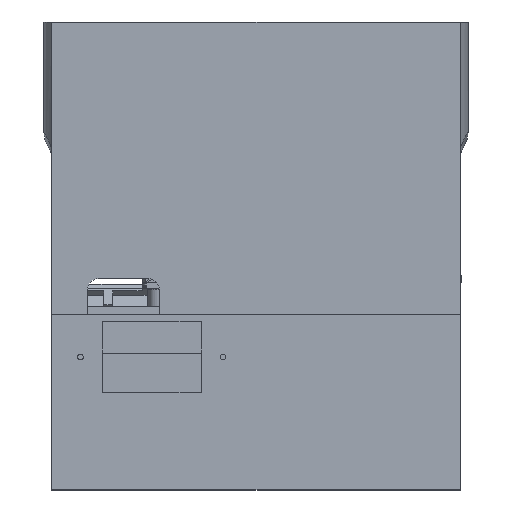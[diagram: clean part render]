
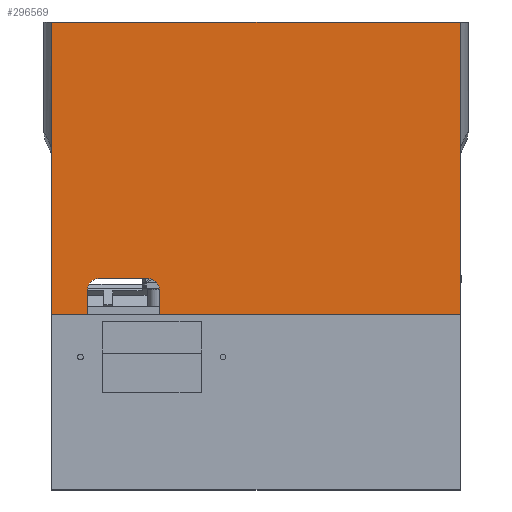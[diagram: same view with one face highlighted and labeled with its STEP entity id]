
A CAD part, left-side view. The second image highlights one B-rep face of the part: STEP entity #296569.
In plain terms, the highlighted planar face has unit normal (-1, 0, 0) as drawn and (0, 1, 0) by its records, which use the part's own axes.
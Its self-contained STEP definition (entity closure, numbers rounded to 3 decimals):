
#1977 = CARTESIAN_POINT ( 'NONE',  ( -43.675, 26.094, 0. ) ) ;
#7882 = VERTEX_POINT ( 'NONE', #97111 ) ;
#8702 = EDGE_CURVE ( 'NONE', #354873, #31269, #239070, .T. ) ;
#12290 = DIRECTION ( 'NONE',  ( 0., 0., -1. ) ) ;
#21404 = EDGE_CURVE ( 'NONE', #376067, #129343, #140900, .T. ) ;
#22050 = CARTESIAN_POINT ( 'NONE',  ( -30.675, 26.094, 74.6 ) ) ;
#23405 = VERTEX_POINT ( 'NONE', #294893 ) ;
#24353 = LINE ( 'NONE', #114086, #166220 ) ;
#29202 = CARTESIAN_POINT ( 'NONE',  ( -33.675, 26.094, 71.6 ) ) ;
#29952 = VECTOR ( 'NONE', #234385, 1000. ) ;
#31269 = VERTEX_POINT ( 'NONE', #274991 ) ;
#33213 = PLANE ( 'NONE',  #58899 ) ;
#52102 = EDGE_CURVE ( 'NONE', #351735, #23405, #241149, .T. ) ;
#58899 = AXIS2_PLACEMENT_3D ( 'NONE', #317908, #142200, #145926 ) ;
#67391 = VERTEX_POINT ( 'NONE', #245687 ) ;
#81676 = VECTOR ( 'NONE', #325216, 1000. ) ;
#88808 = EDGE_CURVE ( 'NONE', #354873, #67391, #369795, .T. ) ;
#95055 = ORIENTED_EDGE ( 'NONE', *, *, #191812, .F. ) ;
#97111 = CARTESIAN_POINT ( 'NONE',  ( -33.675, 26.094, 81.6 ) ) ;
#98942 = AXIS2_PLACEMENT_3D ( 'NONE', #22050, #132939, #138562 ) ;
#110045 = DIRECTION ( 'NONE',  ( 0., 0., -1. ) ) ;
#114086 = CARTESIAN_POINT ( 'NONE',  ( -33.675, 26.094, 81.6 ) ) ;
#126453 = CARTESIAN_POINT ( 'NONE',  ( -30.675, 26.094, 71.6 ) ) ;
#129343 = VERTEX_POINT ( 'NONE', #331313 ) ;
#132939 = DIRECTION ( 'NONE',  ( 0., -1., 0. ) ) ;
#137746 = ORIENTED_EDGE ( 'NONE', *, *, #88808, .T. ) ;
#138562 = DIRECTION ( 'NONE',  ( 0., 0., -1. ) ) ;
#140164 = ORIENTED_EDGE ( 'NONE', *, *, #52102, .T. ) ;
#140900 = LINE ( 'NONE', #377656, #29952 ) ;
#142200 = DIRECTION ( 'NONE',  ( 0., -1., 0. ) ) ;
#145926 = DIRECTION ( 'NONE',  ( 0., 0., -1. ) ) ;
#146459 = EDGE_CURVE ( 'NONE', #212227, #191948, #172303, .T. ) ;
#151116 = ORIENTED_EDGE ( 'NONE', *, *, #256604, .F. ) ;
#154957 = CARTESIAN_POINT ( 'NONE',  ( 70.325, 26.094, 81.6 ) ) ;
#164953 = CARTESIAN_POINT ( 'NONE',  ( -13.675, 26.094, 81.6 ) ) ;
#166220 = VECTOR ( 'NONE', #377640, 1000. ) ;
#169542 = ORIENTED_EDGE ( 'NONE', *, *, #8702, .F. ) ;
#172032 = DIRECTION ( 'NONE',  ( -1., 0., 0. ) ) ;
#172303 = CIRCLE ( 'NONE', #98942, 3. ) ;
#175341 = EDGE_CURVE ( 'NONE', #212227, #7882, #24353, .T. ) ;
#179985 = ORIENTED_EDGE ( 'NONE', *, *, #146459, .T. ) ;
#180211 = CARTESIAN_POINT ( 'NONE',  ( 70.325, 26.094, 81.6 ) ) ;
#184961 = EDGE_CURVE ( 'NONE', #7882, #376067, #354057, .T. ) ;
#191812 = EDGE_CURVE ( 'NONE', #351735, #191948, #203074, .T. ) ;
#191925 = DIRECTION ( 'NONE',  ( 0., -1., 0. ) ) ;
#191948 = VERTEX_POINT ( 'NONE', #126453 ) ;
#203074 = LINE ( 'NONE', #29202, #81676 ) ;
#206613 = VECTOR ( 'NONE', #327268, 1000. ) ;
#207172 = ORIENTED_EDGE ( 'NONE', *, *, #184961, .F. ) ;
#210759 = CARTESIAN_POINT ( 'NONE',  ( 70.325, 26.094, 81.6 ) ) ;
#212227 = VERTEX_POINT ( 'NONE', #322231 ) ;
#219005 = ORIENTED_EDGE ( 'NONE', *, *, #21404, .F. ) ;
#220510 = VECTOR ( 'NONE', #12290, 1000. ) ;
#220597 = CARTESIAN_POINT ( 'NONE',  ( -16.675, 26.094, 74.6 ) ) ;
#228142 = FACE_OUTER_BOUND ( 'NONE', #237356, .T. ) ;
#233105 = LINE ( 'NONE', #1977, #316871 ) ;
#234385 = DIRECTION ( 'NONE',  ( 0., 0., -1. ) ) ;
#237356 = EDGE_LOOP ( 'NONE', ( #207172, #253003, #179985, #95055, #140164, #151116, #169542, #137746, #273437, #219005 ) ) ;
#239070 = LINE ( 'NONE', #154957, #284372 ) ;
#241149 = CIRCLE ( 'NONE', #313675, 3. ) ;
#245687 = CARTESIAN_POINT ( 'NONE',  ( 70.325, 26.094, 0. ) ) ;
#253003 = ORIENTED_EDGE ( 'NONE', *, *, #175341, .F. ) ;
#255197 = CARTESIAN_POINT ( 'NONE',  ( 70.325, 26.094, 1.6 ) ) ;
#256604 = EDGE_CURVE ( 'NONE', #31269, #23405, #306395, .T. ) ;
#271455 = DIRECTION ( 'NONE',  ( -1., 0., 0. ) ) ;
#273437 = ORIENTED_EDGE ( 'NONE', *, *, #347167, .T. ) ;
#274991 = CARTESIAN_POINT ( 'NONE',  ( -13.675, 26.094, 81.6 ) ) ;
#277871 = DIRECTION ( 'NONE',  ( 0., 0., -1. ) ) ;
#284372 = VECTOR ( 'NONE', #271455, 1000. ) ;
#294893 = CARTESIAN_POINT ( 'NONE',  ( -13.675, 26.094, 74.6 ) ) ;
#296569 = ADVANCED_FACE ( 'NONE', ( #228142 ), #33213, .F. ) ;
#306395 = LINE ( 'NONE', #164953, #220510 ) ;
#312148 = CARTESIAN_POINT ( 'NONE',  ( -16.675, 26.094, 71.6 ) ) ;
#313675 = AXIS2_PLACEMENT_3D ( 'NONE', #220597, #191925, #277871 ) ;
#314397 = VECTOR ( 'NONE', #110045, 1000. ) ;
#316871 = VECTOR ( 'NONE', #172032, 1000. ) ;
#317908 = CARTESIAN_POINT ( 'NONE',  ( -43.675, 26.094, 1.6 ) ) ;
#322231 = CARTESIAN_POINT ( 'NONE',  ( -33.675, 26.094, 74.6 ) ) ;
#325216 = DIRECTION ( 'NONE',  ( -1., 0., 0. ) ) ;
#327268 = DIRECTION ( 'NONE',  ( -1., 0., 0. ) ) ;
#331313 = CARTESIAN_POINT ( 'NONE',  ( -43.675, 26.094, 0. ) ) ;
#347167 = EDGE_CURVE ( 'NONE', #67391, #129343, #233105, .T. ) ;
#351705 = CARTESIAN_POINT ( 'NONE',  ( -43.675, 26.094, 81.6 ) ) ;
#351735 = VERTEX_POINT ( 'NONE', #312148 ) ;
#354057 = LINE ( 'NONE', #210759, #206613 ) ;
#354873 = VERTEX_POINT ( 'NONE', #180211 ) ;
#369795 = LINE ( 'NONE', #255197, #314397 ) ;
#376067 = VERTEX_POINT ( 'NONE', #351705 ) ;
#377640 = DIRECTION ( 'NONE',  ( 0., 0., 1. ) ) ;
#377656 = CARTESIAN_POINT ( 'NONE',  ( -43.675, 26.094, 1.6 ) ) ;
